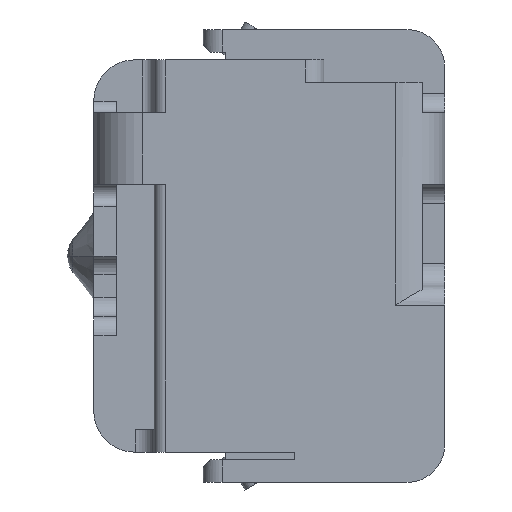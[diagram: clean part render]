
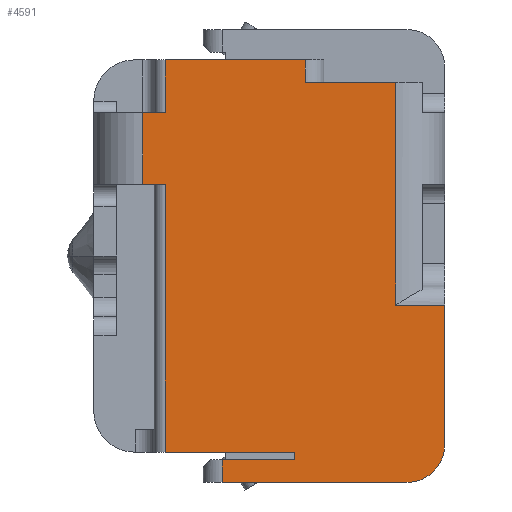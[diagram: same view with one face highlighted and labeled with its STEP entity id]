
A CAD part, left-side view. The second image highlights one B-rep face of the part: STEP entity #4591.
In plain terms, the highlighted planar face has unit normal (-1, 0, 0).
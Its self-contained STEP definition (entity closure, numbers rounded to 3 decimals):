
#372=DIRECTION('',(0.,1.,0.));
#373=VECTOR('',#372,0.37);
#374=CARTESIAN_POINT('',(-0.6,0.37,0.52));
#375=LINE('',#374,#373);
#813=DIRECTION('',(0.,-1.,0.));
#814=VECTOR('',#813,0.49);
#815=CARTESIAN_POINT('',(-0.6,0.59,-0.6));
#816=LINE('',#815,#814);
#853=DIRECTION('',(0.,0.,1.));
#854=VECTOR('',#853,0.02);
#855=CARTESIAN_POINT('',(-0.6,0.399,-0.54));
#856=LINE('',#855,#854);
#857=DIRECTION('',(0.,0.,1.));
#858=VECTOR('',#857,0.71);
#859=CARTESIAN_POINT('',(-0.6,0.74,-0.52));
#860=LINE('',#859,#858);
#861=CARTESIAN_POINT('',(-0.6,0.1,-0.5));
#862=DIRECTION('',(1.,0.,0.));
#863=DIRECTION('',(0.,-1.,0.));
#864=AXIS2_PLACEMENT_3D('',#861,#862,#863);
#875=DIRECTION('',(0.,1.,0.));
#876=VECTOR('',#875,0.191);
#877=CARTESIAN_POINT('',(-0.6,0.399,-0.54));
#878=LINE('',#877,#876);
#1235=DIRECTION('',(0.,0.,-1.));
#1236=VECTOR('',#1235,0.06);
#1237=CARTESIAN_POINT('',(-0.6,0.59,-0.54));
#1238=LINE('',#1237,#1236);
#1256=DIRECTION('',(0.,0.,1.));
#1257=VECTOR('',#1256,0.37);
#1258=CARTESIAN_POINT('',(-0.6,0.,-0.5));
#1259=LINE('',#1258,#1257);
#1284=CARTESIAN_POINT('',(-0.6,0.13,-0.13));
#1286=DIRECTION('',(0.,0.,1.));
#1287=VECTOR('',#1286,0.59);
#1288=CARTESIAN_POINT('',(-0.6,0.13,-0.13));
#1289=LINE('',#1288,#1287);
#1302=DIRECTION('',(0.,1.,0.));
#1303=VECTOR('',#1302,0.13);
#1304=CARTESIAN_POINT('',(-0.6,0.,-0.13));
#1305=LINE('',#1304,#1303);
#1379=DIRECTION('',(0.,1.,0.));
#1380=VECTOR('',#1379,0.24);
#1381=CARTESIAN_POINT('',(-0.6,0.13,0.46));
#1382=LINE('',#1381,#1380);
#1720=DIRECTION('',(0.,-1.,0.));
#1721=VECTOR('',#1720,0.06);
#1722=CARTESIAN_POINT('',(-0.6,0.8,0.19));
#1723=LINE('',#1722,#1721);
#1750=DIRECTION('',(0.,-1.,0.));
#1751=VECTOR('',#1750,0.06);
#1752=CARTESIAN_POINT('',(-0.6,0.8,0.38));
#1753=LINE('',#1752,#1751);
#1772=DIRECTION('',(0.,0.,-1.));
#1773=VECTOR('',#1772,0.14);
#1774=CARTESIAN_POINT('',(-0.6,0.74,0.52));
#1775=LINE('',#1774,#1773);
#1818=DIRECTION('',(0.,-1.,0.));
#1819=VECTOR('',#1818,0.341);
#1820=CARTESIAN_POINT('',(-0.6,0.74,-0.52));
#1821=LINE('',#1820,#1819);
#2087=DIRECTION('',(0.,0.,1.));
#2088=VECTOR('',#2087,0.19);
#2089=CARTESIAN_POINT('',(-0.6,0.8,0.19));
#2090=LINE('',#2089,#2088);
#2494=DIRECTION('',(0.,0.,1.));
#2495=VECTOR('',#2494,0.06);
#2496=CARTESIAN_POINT('',(-0.6,0.37,0.46));
#2497=LINE('',#2496,#2495);
#2820=CARTESIAN_POINT('',(-0.6,0.37,0.52));
#2821=VERTEX_POINT('',#2820);
#2822=CARTESIAN_POINT('',(-0.6,0.74,0.52));
#2823=VERTEX_POINT('',#2822);
#2920=CARTESIAN_POINT('',(-0.6,0.,-0.5));
#2921=VERTEX_POINT('',#2920);
#2922=CARTESIAN_POINT('',(-0.6,0.,-0.13));
#2923=VERTEX_POINT('',#2922);
#2974=CARTESIAN_POINT('',(-0.6,0.1,-0.6));
#2975=VERTEX_POINT('',#2974);
#2986=CARTESIAN_POINT('',(-0.6,0.59,-0.6));
#2987=VERTEX_POINT('',#2986);
#3004=CARTESIAN_POINT('',(-0.6,0.59,-0.54));
#3006=VERTEX_POINT('',#3004);
#3203=CARTESIAN_POINT('',(-0.6,0.13,0.46));
#3205=VERTEX_POINT('',#3203);
#3210=CARTESIAN_POINT('',(-0.6,0.37,0.46));
#3211=VERTEX_POINT('',#3210);
#3231=VERTEX_POINT('',#1284);
#3242=CARTESIAN_POINT('',(-0.6,0.8,0.19));
#3243=CARTESIAN_POINT('',(-0.6,0.8,0.38));
#3244=VERTEX_POINT('',#3242);
#3245=VERTEX_POINT('',#3243);
#3250=CARTESIAN_POINT('',(-0.6,0.74,0.38));
#3251=VERTEX_POINT('',#3250);
#3252=CARTESIAN_POINT('',(-0.6,0.74,0.19));
#3253=VERTEX_POINT('',#3252);
#3256=CARTESIAN_POINT('',(-0.6,0.74,-0.52));
#3258=VERTEX_POINT('',#3256);
#3352=CARTESIAN_POINT('',(-0.6,0.399,-0.54));
#3353=CARTESIAN_POINT('',(-0.6,0.399,-0.52));
#3354=VERTEX_POINT('',#3352);
#3355=VERTEX_POINT('',#3353);
#4553=CARTESIAN_POINT('',(-0.6,0.585,-0.49));
#4554=DIRECTION('',(1.,0.,0.));
#4555=DIRECTION('',(0.,-1.,0.));
#4556=AXIS2_PLACEMENT_3D('',#4553,#4554,#4555);
#4557=PLANE('',#4556);
#4559=ORIENTED_EDGE('',*,*,#4558,.F.);
#4561=ORIENTED_EDGE('',*,*,#4560,.T.);
#4563=ORIENTED_EDGE('',*,*,#4562,.F.);
#4565=ORIENTED_EDGE('',*,*,#4564,.T.);
#4567=ORIENTED_EDGE('',*,*,#4566,.F.);
#4569=ORIENTED_EDGE('',*,*,#4568,.T.);
#4571=ORIENTED_EDGE('',*,*,#4570,.T.);
#4573=ORIENTED_EDGE('',*,*,#4572,.F.);
#4574=ORIENTED_EDGE('',*,*,#3951,.F.);
#4576=ORIENTED_EDGE('',*,*,#4575,.F.);
#4578=ORIENTED_EDGE('',*,*,#4577,.F.);
#4580=ORIENTED_EDGE('',*,*,#4579,.F.);
#4582=ORIENTED_EDGE('',*,*,#4581,.F.);
#4584=ORIENTED_EDGE('',*,*,#4583,.F.);
#4585=ORIENTED_EDGE('',*,*,#4543,.T.);
#4586=ORIENTED_EDGE('',*,*,#4519,.F.);
#4588=ORIENTED_EDGE('',*,*,#4587,.F.);
#4589=EDGE_LOOP('',(#4559,#4561,#4563,#4565,#4567,#4569,#4571,#4573,#4574,#4576,
#4578,#4580,#4582,#4584,#4585,#4586,#4588));
#4590=FACE_OUTER_BOUND('',#4589,.F.);
#4591=ADVANCED_FACE('',(#4590),#4557,.F.);
#865=CIRCLE('',#864,0.1);
#3951=EDGE_CURVE('',#2821,#2823,#375,.T.);
#4519=EDGE_CURVE('',#2987,#2975,#816,.T.);
#4543=EDGE_CURVE('',#2921,#2975,#865,.T.);
#4558=EDGE_CURVE('',#3354,#3006,#878,.T.);
#4560=EDGE_CURVE('',#3354,#3355,#856,.T.);
#4562=EDGE_CURVE('',#3258,#3355,#1821,.T.);
#4564=EDGE_CURVE('',#3258,#3253,#860,.T.);
#4566=EDGE_CURVE('',#3244,#3253,#1723,.T.);
#4568=EDGE_CURVE('',#3244,#3245,#2090,.T.);
#4570=EDGE_CURVE('',#3245,#3251,#1753,.T.);
#4572=EDGE_CURVE('',#2823,#3251,#1775,.T.);
#4575=EDGE_CURVE('',#3211,#2821,#2497,.T.);
#4577=EDGE_CURVE('',#3205,#3211,#1382,.T.);
#4579=EDGE_CURVE('',#3231,#3205,#1289,.T.);
#4581=EDGE_CURVE('',#2923,#3231,#1305,.T.);
#4583=EDGE_CURVE('',#2921,#2923,#1259,.T.);
#4587=EDGE_CURVE('',#3006,#2987,#1238,.T.);
